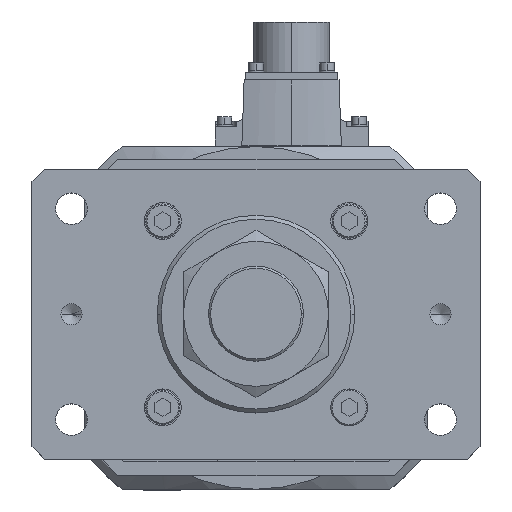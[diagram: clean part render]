
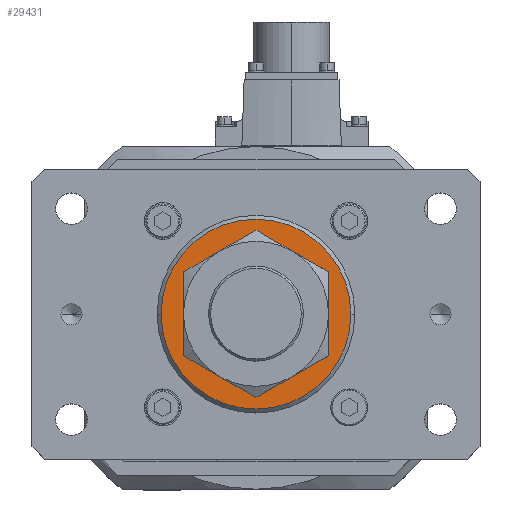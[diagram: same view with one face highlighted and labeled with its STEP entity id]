
A CAD part, top view. The second image highlights one B-rep face of the part: STEP entity #29431.
In plain terms, the highlighted planar face has unit normal (0, 0, 1).
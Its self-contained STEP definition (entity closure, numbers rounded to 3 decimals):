
#808 = CIRCLE ( 'NONE', #15356, 23. ) ;
#1337 = FACE_OUTER_BOUND ( 'NONE', #18812, .T. ) ;
#3270 = DIRECTION ( 'NONE',  ( 1., 0., 0. ) ) ;
#3881 = CIRCLE ( 'NONE', #19396, 23. ) ;
#4797 = CARTESIAN_POINT ( 'NONE',  ( 0., 0., 546. ) ) ;
#5034 = DIRECTION ( 'NONE',  ( 1., 0., 0. ) ) ;
#5319 = EDGE_CURVE ( 'NONE', #19891, #9289, #808, .T. ) ;
#7458 = DIRECTION ( 'NONE',  ( 0., 0., 1. ) ) ;
#8617 = DIRECTION ( 'NONE',  ( 1., 0., 0. ) ) ;
#9238 = CARTESIAN_POINT ( 'NONE',  ( -23., 0., 546. ) ) ;
#9289 = VERTEX_POINT ( 'NONE', #25636 ) ;
#10280 = FACE_BOUND ( 'NONE', #16832, .T. ) ;
#11048 = ORIENTED_EDGE ( 'NONE', *, *, #14612, .T. ) ;
#14612 = EDGE_CURVE ( 'NONE', #25354, #28201, #29518, .T. ) ;
#15356 = AXIS2_PLACEMENT_3D ( 'NONE', #17481, #20309, #3270 ) ;
#16832 = EDGE_LOOP ( 'NONE', ( #30591, #23381 ) ) ;
#16901 = EDGE_CURVE ( 'NONE', #28201, #25354, #34106, .T. ) ;
#17021 = AXIS2_PLACEMENT_3D ( 'NONE', #35884, #7458, #27389 ) ;
#17237 = CARTESIAN_POINT ( 'NONE',  ( 0., 0., 546. ) ) ;
#17481 = CARTESIAN_POINT ( 'NONE',  ( 0., 0., 546. ) ) ;
#18812 = EDGE_LOOP ( 'NONE', ( #31599, #11048 ) ) ;
#19396 = AXIS2_PLACEMENT_3D ( 'NONE', #17237, #34416, #8617 ) ;
#19891 = VERTEX_POINT ( 'NONE', #9238 ) ;
#20309 = DIRECTION ( 'NONE',  ( 0., 0., -1. ) ) ;
#21953 = DIRECTION ( 'NONE',  ( 0., 0., 1. ) ) ;
#23381 = ORIENTED_EDGE ( 'NONE', *, *, #5319, .T. ) ;
#23649 = AXIS2_PLACEMENT_3D ( 'NONE', #34705, #29208, #35203 ) ;
#25354 = VERTEX_POINT ( 'NONE', #34404 ) ;
#25636 = CARTESIAN_POINT ( 'NONE',  ( 23., 0., 546. ) ) ;
#27389 = DIRECTION ( 'NONE',  ( 1., 0., 0. ) ) ;
#28201 = VERTEX_POINT ( 'NONE', #32747 ) ;
#29208 = DIRECTION ( 'NONE',  ( 0., 0., 1. ) ) ;
#29431 = ADVANCED_FACE ( 'NONE', ( #10280, #1337 ), #33178, .T. ) ;
#29518 = CIRCLE ( 'NONE', #23649, 36. ) ;
#30591 = ORIENTED_EDGE ( 'NONE', *, *, #32350, .T. ) ;
#31599 = ORIENTED_EDGE ( 'NONE', *, *, #16901, .T. ) ;
#32350 = EDGE_CURVE ( 'NONE', #9289, #19891, #3881, .T. ) ;
#32747 = CARTESIAN_POINT ( 'NONE',  ( -36., 0., 546. ) ) ;
#33178 = PLANE ( 'NONE',  #33852 ) ;
#33852 = AXIS2_PLACEMENT_3D ( 'NONE', #4797, #21953, #5034 ) ;
#34106 = CIRCLE ( 'NONE', #17021, 36. ) ;
#34404 = CARTESIAN_POINT ( 'NONE',  ( 36., 0., 546. ) ) ;
#34416 = DIRECTION ( 'NONE',  ( 0., 0., -1. ) ) ;
#34705 = CARTESIAN_POINT ( 'NONE',  ( 0., 0., 546. ) ) ;
#35203 = DIRECTION ( 'NONE',  ( 1., 0., 0. ) ) ;
#35884 = CARTESIAN_POINT ( 'NONE',  ( 0., 0., 546. ) ) ;
